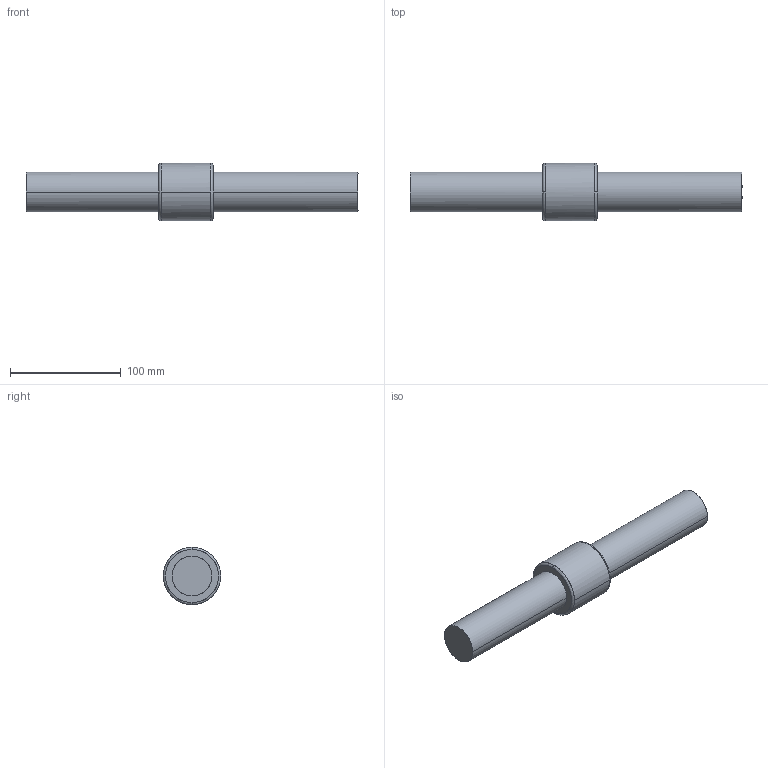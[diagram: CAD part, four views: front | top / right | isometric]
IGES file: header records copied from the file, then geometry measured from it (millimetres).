
Global section: file name: No Iges File Name specified; native system: AutoDesk Inventor R10; preprocessor: AutoDesk Inventor Iges Exporter R10; author: No Author specified; organization: No Organization specified; date: 20101224.154847; units: millimetre
Bounding box: 300 x 52 x 52 mm (x, y, z)
Surface area: 51439.2 mm2 (no closed solid volume)
Topology: 0 solids, 0 shells, 14 faces, 84 edges, 84 vertices
Faces by surface type: bspline 14
